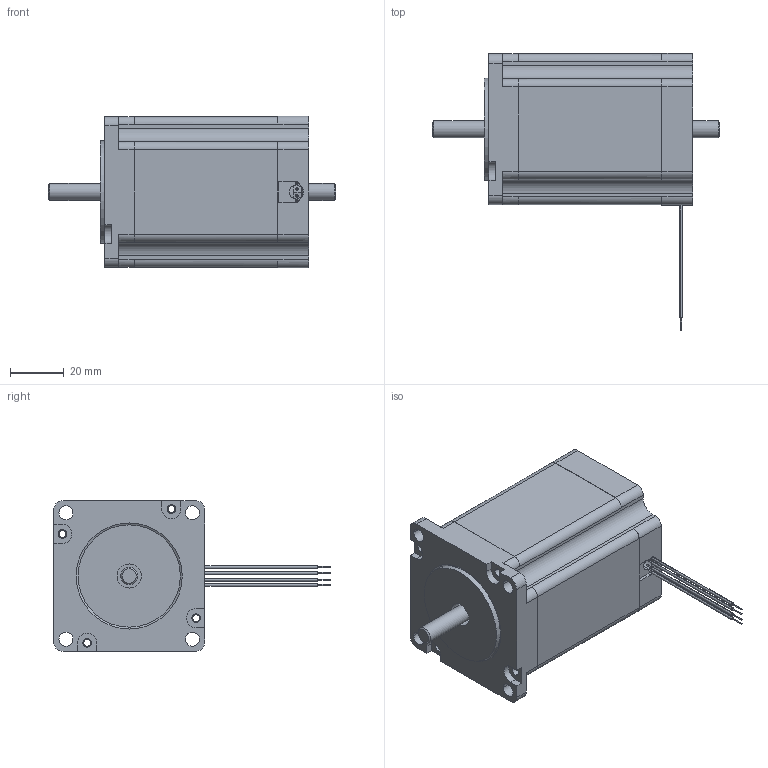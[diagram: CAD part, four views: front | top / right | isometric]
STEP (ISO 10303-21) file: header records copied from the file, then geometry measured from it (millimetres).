
FILE_DESCRIPTION( ('This file contains a STEP AP42 implementation' ,'as created by ZW3D STEP Interface translator.' ,'') ,'2;1' );
FILE_NAME( '57HS76H-XXXX-XXX.stp' ,'26 115.10 733', (''), ('ZWCAD Software Co.'), 'Version 1.0', 'ZW3D to STEP translator', '' );
FILE_SCHEMA(('AUTOMOTIVE_DESIGN { 1 0 10303 214 1 1 1 1 }'));
Length unit declared in the file: millimetre
Products named in the file (1): 0
Bounding box: 107 x 103.22 x 56.44 mm (x, y, z)
Volume: 106930.5 mm3; surface area: 70643.7 mm2
Topology: 4 solids, 4 shells, 1232 faces, 3921 edges, 2539 vertices
Faces by surface type: cylinder 557, plane 507, torus 112, cone 52, bspline 4
Full cylindrical faces by diameter (mm): 6.35 x2, 38.1 x1
Entity records: 45723 total; most frequent: CARTESIAN_POINT 8189, DIRECTION 7940, ORIENTED_EDGE 7842, EDGE_CURVE 3921, AXIS2_PLACEMENT_3D 2860, VERTEX_POINT 2539, VECTOR 2220, LINE 2220
